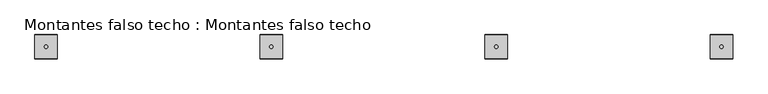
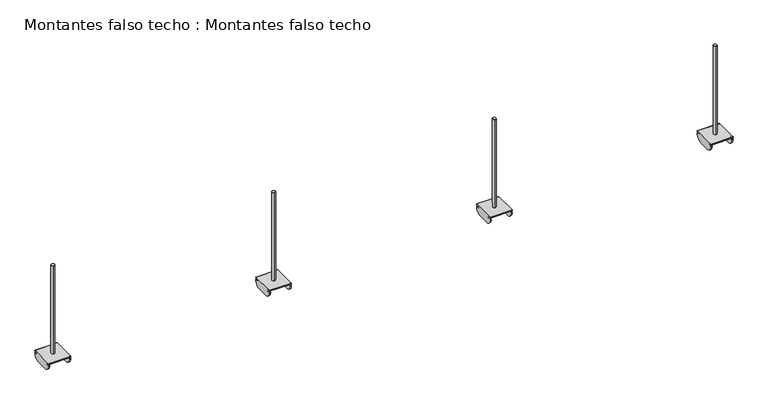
"""IFC4 building model written with IfcOpenShell, lengths in millimetres: proxy geometry, Montantes falso techo : Montantes falso techo."""

from ifc_helpers import new_model, si_unit, point, frame, frame_2d, origin, place, context, project, spatial, polyline, circle_curve, trimmed, segment, composite_curve, outline, extrude, source, transform, mapped, element, save
from ifc_brep_helpers import plane_surface, cylinder_surface, revolved_surface, advanced_brep


def montantes_falso_techo_montantes_falso_techo_e8f84bc9(model_context):
    return source(origin(), model_context, "Body", "SolidModel", [
        advanced_brep(
        [(2820.0, 43.5, 20.5482632), (2820.0, 1.5, 20.5482632), (2820.0, 1.0, 20.0482632), (2820.0, 1.0, 18.9163502), (2820.0, 2.4828079, 18.9163502), (2820.0, 6.039567, 18.4830458), (2820.0, 5.9539025, 16.4867218), (2820.0, 1.5116522, 16.4867218), (2820.0, 1.0121251, 15.9649826), (2820.0, 10.5007775, 4.4867218), (2820.0, 34.5007775, 4.4867218), (2820.0, 43.98943, 15.9649826), (2820.0, 43.4899028, 16.4867218), (2820.0, 39.0281213, 16.4867218), (2820.0, 38.9388351, 18.4827278), (2820.0, 42.5171921, 18.9163502), (2820.0, 44.0007775, 18.9163502), (2820.0, 44.0007775, 20.0482632), (2780.0, 43.5, 20.5482632), (2780.0, 44.0, 20.0482632), (2780.0, 44.0007775, 18.9163502), (2780.0, 42.5171921, 18.9163502), (2780.0, 38.9388351, 18.4827278), (2780.0, 39.0281213, 16.4867218), (2780.0, 43.4899028, 16.4867218), (2780.0, 43.98943, 15.9649826), (2780.0, 34.5007775, 4.4867218), (2780.0, 10.5007775, 4.4867218), (2780.0, 1.0121251, 15.9649826), (2780.0, 1.5116522, 16.4867218), (2780.0, 5.9539025, 16.4867218), (2780.0, 6.039567, 18.4830458), (2780.0, 2.4828079, 18.9163502), (2780.0, 1.0, 18.9163502), (2780.0, 1.0, 20.0482632), (2780.0, 1.5, 20.5482632), (2818.0, 2.4828079, 18.9163502), (2818.0, 6.039567, 18.4830458), (2782.0, 6.039567, 18.4830458), (2782.0, 2.4828079, 18.9163502), (2818.0, 5.9539025, 16.4867218), (2782.0, 5.9539025, 16.4867218), (2818.0, 1.5116522, 16.4867218), (2782.0, 1.5116522, 16.4867218), (2818.0, 1.0121251, 15.9649826), (2782.0, 1.0121251, 15.9649826), (2818.0, 10.5007775, 4.4867218), (2782.0, 10.5007775, 4.4867218), (2818.0, 34.5007775, 4.4867218), (2782.0, 34.5007775, 4.4867218), (2818.0, 43.98943, 15.9649826), (2782.0, 43.98943, 15.9649826), (2818.0, 43.4899028, 16.4867218), (2782.0, 43.4899028, 16.4867218), (2818.0, 39.0281213, 16.4867218), (2782.0, 39.0281213, 16.4867218), (2818.0, 38.9388351, 18.4827278), (2782.0, 38.9388351, 18.4827278), (2818.0, 42.5171921, 18.9163502), (2782.0, 42.5171921, 18.9163502)],
        [
            (0, 1),
            (1, 2, circle_curve(frame((2820.0, 1.5, 20.0482632), z_axis=(1.0, 0.0, 0.0), x_axis=(0.0, 1.0, 0.0)), 0.5)),
            (2, 3),
            (3, 4),
            (4, 5),
            (5, 6, circle_curve(frame((2820.0, 5.9539025, 17.4867218), z_axis=(-1.0, 0.0, 0.0), x_axis=(0.0, 1.0, 0.0)), 1.0)),
            (6, 7),
            (7, 8, circle_curve(frame((2820.0, 1.5116522, 15.9867218), z_axis=(1.0, 0.0, 0.0), x_axis=(0.0, 1.0, 0.0)), 0.5)),
            (8, 9, circle_curve(frame((2820.0, 13.7293201, 16.8167271), z_axis=(1.0, 0.0, 0.0), x_axis=(0.0, 1.0, 0.0)), 12.7456862)),
            (9, 10),
            (10, 11, circle_curve(frame((2820.0, 31.272235, 16.8167271), z_axis=(1.0, 0.0, 0.0), x_axis=(0.0, 1.0, 0.0)), 12.7456862)),
            (11, 12, circle_curve(frame((2820.0, 43.4899028, 15.9867218), z_axis=(1.0, 0.0, 0.0), x_axis=(0.0, 1.0, 0.0)), 0.5)),
            (12, 13),
            (13, 14, circle_curve(frame((2820.0, 39.0281213, 17.4867218), z_axis=(-1.0, 0.0, 0.0), x_axis=(0.0, 1.0, 0.0)), 1.0)),
            (14, 15),
            (15, 16),
            (16, 17),
            (17, 0, circle_curve(frame((2820.0, 43.5, 20.0482632), z_axis=(1.0, 0.0, 0.0), x_axis=(0.0, 1.0, 0.0)), 0.5)),
            (18, 19, circle_curve(frame((2780.0, 43.5, 20.0482632), z_axis=(-1.0, 0.0, 0.0), x_axis=(0.0, 1.0, 0.0)), 0.5)),
            (19, 20),
            (20, 21),
            (21, 22),
            (22, 23, circle_curve(frame((2780.0, 39.0281213, 17.4867218), z_axis=(1.0, 0.0, 0.0), x_axis=(0.0, 1.0, 0.0)), 1.0)),
            (23, 24),
            (24, 25, circle_curve(frame((2780.0, 43.4899028, 15.9867218), z_axis=(-1.0, 0.0, 0.0), x_axis=(0.0, 1.0, 0.0)), 0.5)),
            (25, 26, circle_curve(frame((2780.0, 31.272235, 16.8167271), z_axis=(-1.0, 0.0, 0.0), x_axis=(0.0, 1.0, 0.0)), 12.7456862)),
            (26, 27),
            (27, 28, circle_curve(frame((2780.0, 13.7293201, 16.8167271), z_axis=(-1.0, 0.0, 0.0), x_axis=(0.0, 1.0, 0.0)), 12.7456862)),
            (28, 29, circle_curve(frame((2780.0, 1.5116522, 15.9867218), z_axis=(-1.0, 0.0, 0.0), x_axis=(0.0, 1.0, 0.0)), 0.5)),
            (29, 30),
            (30, 31, circle_curve(frame((2780.0, 5.9539025, 17.4867218), z_axis=(1.0, 0.0, 0.0), x_axis=(0.0, 1.0, 0.0)), 1.0)),
            (31, 32),
            (32, 33),
            (33, 34),
            (34, 35, circle_curve(frame((2780.0, 1.5, 20.0482632), z_axis=(-1.0, 0.0, 0.0), x_axis=(0.0, 1.0, 0.0)), 0.5)),
            (35, 18),
            (0, 18),
            (35, 1),
            (34, 2),
            (33, 3),
            (4, 36),
            (36, 37),
            (37, 5),
            (31, 38),
            (38, 39),
            (39, 32),
            (37, 40, circle_curve(frame((2818.0, 5.9539025, 17.4867218), z_axis=(-1.0, 0.0, 0.0), x_axis=(0.0, 1.0, 0.0)), 1.0)),
            (40, 6),
            (30, 41),
            (41, 38, circle_curve(frame((2782.0, 5.9539025, 17.4867218), z_axis=(1.0, 0.0, 0.0), x_axis=(0.0, 1.0, 0.0)), 1.0)),
            (40, 42),
            (42, 7),
            (29, 43),
            (43, 41),
            (42, 44, circle_curve(frame((2818.0, 1.5116522, 15.9867218), z_axis=(1.0, 0.0, 0.0), x_axis=(0.0, 1.0, 0.0)), 0.5)),
            (44, 8),
            (28, 45),
            (45, 43, circle_curve(frame((2782.0, 1.5116522, 15.9867218), z_axis=(-1.0, 0.0, 0.0), x_axis=(0.0, 1.0, 0.0)), 0.5)),
            (44, 46, circle_curve(frame((2818.0, 13.7293201, 16.8167271), z_axis=(1.0, 0.0, 0.0), x_axis=(0.0, 1.0, 0.0)), 12.7456862)),
            (46, 9),
            (27, 47),
            (47, 45, circle_curve(frame((2782.0, 13.7293201, 16.8167271), z_axis=(-1.0, 0.0, 0.0), x_axis=(0.0, 1.0, 0.0)), 12.7456862)),
            (46, 48),
            (48, 10),
            (26, 49),
            (49, 47),
            (48, 50, circle_curve(frame((2818.0, 31.272235, 16.8167271), z_axis=(1.0, 0.0, 0.0), x_axis=(0.0, 1.0, 0.0)), 12.7456862)),
            (50, 11),
            (25, 51),
            (51, 49, circle_curve(frame((2782.0, 31.272235, 16.8167271), z_axis=(-1.0, 0.0, 0.0), x_axis=(0.0, 1.0, 0.0)), 12.7456862)),
            (50, 52, circle_curve(frame((2818.0, 43.4899028, 15.9867218), z_axis=(1.0, 0.0, 0.0), x_axis=(0.0, 1.0, 0.0)), 0.5)),
            (52, 12),
            (24, 53),
            (53, 51, circle_curve(frame((2782.0, 43.4899028, 15.9867218), z_axis=(-1.0, 0.0, 0.0), x_axis=(0.0, 1.0, 0.0)), 0.5)),
            (52, 54),
            (54, 13),
            (23, 55),
            (55, 53),
            (54, 56, circle_curve(frame((2818.0, 39.0281213, 17.4867218), z_axis=(-1.0, 0.0, 0.0), x_axis=(0.0, 1.0, 0.0)), 1.0)),
            (56, 14),
            (22, 57),
            (57, 55, circle_curve(frame((2782.0, 39.0281213, 17.4867218), z_axis=(1.0, 0.0, 0.0), x_axis=(0.0, 1.0, 0.0)), 1.0)),
            (56, 58),
            (58, 15),
            (21, 59),
            (59, 57),
            (16, 20),
            (19, 17),
            (36, 58),
            (59, 39),
        ],
        [
            plane_surface(frame((2820.0, 1.5, 20.5482632), z_axis=(1.0, 0.0, 0.0), x_axis=(0.0, -1.0, -2.4252718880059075e-12))),
            plane_surface(frame((2780.0, 1.5, 20.5482632), z_axis=(-1.0, 0.0, 0.0), x_axis=(0.0, 1.0, 2.4252718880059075e-12))),
            plane_surface(frame((2820.0, 43.5, 20.5482632), z_axis=(0.0, -2.4252718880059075e-12, 1.0), x_axis=(-1.0, 0.0, 0.0))),
            cylinder_surface(frame((2780.0, 1.5, 20.0482632), z_axis=(1.0, 0.0, 0.0), x_axis=(0.0, 1.0, 0.0)), 0.5),
            plane_surface(frame((2820.0, 1.0, 20.0482632), z_axis=(0.0, -1.0, 0.0), x_axis=(-1.0, 0.0, 0.0))),
            plane_surface(frame((2820.0, 2.4828079, 18.9163502), z_axis=(0.0, -0.12093153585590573, -0.9926608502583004), x_axis=(-1.0, 0.0, 0.0))),
            revolved_surface(polyline([(2818.0, 6.9539025, 17.4867218), (2820.0, 6.9539025, 17.4867218)]), (2780.0, 5.9539025, 17.4867218), (-1.0, 0.0, 0.0)),
            revolved_surface(polyline([(2780.0, 6.9539025, 17.4867218), (2782.0, 6.9539025, 17.4867218)]), (2780.0, 5.9539025, 17.4867218), (-1.0, 0.0, 0.0)),
            plane_surface(frame((2820.0, 5.9539025, 16.4867218), z_axis=(0.0, -2.2931091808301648e-11, 1.0), x_axis=(-1.0, 0.0, 0.0))),
            cylinder_surface(frame((2780.0, 1.5116522, 15.9867218), z_axis=(1.0, 0.0, 0.0), x_axis=(0.0, 1.0, 0.0)), 0.5),
            cylinder_surface(frame((2780.0, 13.7293201, 16.8167271), z_axis=(1.0, 0.0, 0.0), x_axis=(0.0, 1.0, 0.0)), 12.7456862),
            plane_surface(frame((2820.0, 10.5007775, 4.4867218), z_axis=(0.0, 0.0, -1.0), x_axis=(-1.0, 0.0, 0.0))),
            cylinder_surface(frame((2780.0, 31.272235, 16.8167271), z_axis=(1.0, 0.0, 0.0), x_axis=(0.0, 1.0, 0.0)), 12.7456862),
            cylinder_surface(frame((2780.0, 43.4899028, 15.9867218), z_axis=(1.0, 0.0, 0.0), x_axis=(0.0, 1.0, 0.0)), 0.5),
            plane_surface(frame((2820.0, 43.4899028, 16.4867218), z_axis=(0.0, -1.5818150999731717e-10, 1.0), x_axis=(-1.0, 0.0, 0.0))),
            revolved_surface(polyline([(2818.0, 40.0281213, 17.4867218), (2820.0, 40.0281213, 17.4867218)]), (2780.0, 39.0281213, 17.4867218), (-1.0, 0.0, 0.0)),
            revolved_surface(polyline([(2780.0, 40.0281213, 17.4867218), (2782.0, 40.0281213, 17.4867218)]), (2780.0, 39.0281213, 17.4867218), (-1.0, 0.0, 0.0)),
            plane_surface(frame((2820.0, 38.9388351, 18.4827278), z_axis=(0.0, 0.12029916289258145, -0.9927376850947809), x_axis=(-1.0, 0.0, 0.0))),
            plane_surface(frame((2820.0, 44.0007775, 18.9163502), z_axis=(0.0, 1.0, 0.0), x_axis=(-1.0, 0.0, 0.0))),
            cylinder_surface(frame((2780.0, 43.5, 20.0482632), z_axis=(1.0, 0.0, 0.0), x_axis=(0.0, 1.0, 0.0)), 0.5),
            plane_surface(frame((2818.0, 0.0007775, 18.9163502), z_axis=(-1.0, 0.0, 0.0), x_axis=(0.0, 0.0, -1.0))),
            plane_surface(frame((2782.0, 46.4661896, 18.9163502), z_axis=(1.0, 0.0, 0.0), x_axis=(0.0, 0.0, -1.0))),
            plane_surface(frame((2820.0, 1.0, 18.9163502), z_axis=(0.0, 0.0, -1.0), x_axis=(-1.0, 0.0, 0.0))),
        ],
        [
            (0, [[1, 2, 3, 4, 5, 6, 7, 8, 9, 10, 11, 12, 13, 14, 15, 16, 17, 18]]),
            (1, [[19, 20, 21, 22, 23, 24, 25, 26, 27, 28, 29, 30, 31, 32, 33, 34, 35, 36]]),
            (2, [[-1, 37, -36, 38]]),
            (3, [[-2, -38, -35, 39]]),
            (4, [[40, -3, -39, -34]]),
            (5, [[-5, 41, 42, 43]]),
            (5, [[-32, 44, 45, 46]]),
            (6, [[-6, -43, 47, 48]]),
            (7, [[-31, 49, 50, -44]]),
            (8, [[-7, -48, 51, 52]]),
            (8, [[-30, 53, 54, -49]]),
            (9, [[-8, -52, 55, 56]]),
            (9, [[-29, 57, 58, -53]]),
            (10, [[-9, -56, 59, 60]]),
            (10, [[-28, 61, 62, -57]]),
            (11, [[-10, -60, 63, 64]]),
            (11, [[-27, 65, 66, -61]]),
            (12, [[-11, -64, 67, 68]]),
            (12, [[-26, 69, 70, -65]]),
            (13, [[-12, -68, 71, 72]]),
            (13, [[-25, 73, 74, -69]]),
            (14, [[-13, -72, 75, 76]]),
            (14, [[-24, 77, 78, -73]]),
            (15, [[-14, -76, 79, 80]]),
            (16, [[-23, 81, 82, -77]]),
            (17, [[-15, -80, 83, 84]]),
            (17, [[-22, 85, 86, -81]]),
            (18, [[-17, 87, -20, 88]]),
            (19, [[-18, -88, -19, -37]]),
            (20, [[89, -83, -79, -75, -71, -67, -63, -59, -55, -51, -47, -42]]),
            (21, [[90, -45, -50, -54, -58, -62, -66, -70, -74, -78, -82, -86]]),
            (22, [[-4, -40, -33, -46, -90, -85, -21, -87, -16, -84, -89, -41]]),
        ],
    ),
        extrude(outline(composite_curve([segment(trimmed(circle_curve(frame_2d((2800.0, 22.5)), 3.0), [point((2800.0, 19.5))], [point((2800.0, 25.5))], False, "CARTESIAN"), True, "CONTINUOUS"), segment(trimmed(circle_curve(frame_2d((2800.0, 22.5)), 3.0), [point((2800.0, 25.5))], [point((2800.0, 19.5))], False, "CARTESIAN"), True, "CONTINUOUS")], self_intersect=False)), frame((0.0, 0.0, 20.5482632), z_axis=(0.0, 0.0, 1.0), x_axis=(1.0, 0.0, 0.0)), (0.0, 0.0, 1.0), 169.4517368),
        advanced_brep(
        [(2420.0, 43.5, 20.5482632), (2420.0, 1.5, 20.5482632), (2420.0, 1.0, 20.0482632), (2420.0, 1.0, 18.9163502), (2420.0, 2.4828079, 18.9163502), (2420.0, 6.039567, 18.4830458), (2420.0, 5.9539025, 16.4867218), (2420.0, 1.5116522, 16.4867218), (2420.0, 1.0121251, 15.9649826), (2420.0, 10.5007775, 4.4867218), (2420.0, 34.5007775, 4.4867218), (2420.0, 43.98943, 15.9649826), (2420.0, 43.4899028, 16.4867218), (2420.0, 39.0281213, 16.4867218), (2420.0, 38.9388351, 18.4827278), (2420.0, 42.5171921, 18.9163502), (2420.0, 44.0007775, 18.9163502), (2420.0, 44.0007775, 20.0482632), (2380.0, 43.5, 20.5482632), (2380.0, 44.0, 20.0482632), (2380.0, 44.0007775, 18.9163502), (2380.0, 42.5171921, 18.9163502), (2380.0, 38.9388351, 18.4827278), (2380.0, 39.0281213, 16.4867218), (2380.0, 43.4899028, 16.4867218), (2380.0, 43.98943, 15.9649826), (2380.0, 34.5007775, 4.4867218), (2380.0, 10.5007775, 4.4867218), (2380.0, 1.0121251, 15.9649826), (2380.0, 1.5116522, 16.4867218), (2380.0, 5.9539025, 16.4867218), (2380.0, 6.039567, 18.4830458), (2380.0, 2.4828079, 18.9163502), (2380.0, 1.0, 18.9163502), (2380.0, 1.0, 20.0482632), (2380.0, 1.5, 20.5482632), (2418.0, 2.4828079, 18.9163502), (2418.0, 6.039567, 18.4830458), (2382.0, 6.039567, 18.4830458), (2382.0, 2.4828079, 18.9163502), (2418.0, 5.9539025, 16.4867218), (2382.0, 5.9539025, 16.4867218), (2418.0, 1.5116522, 16.4867218), (2382.0, 1.5116522, 16.4867218), (2418.0, 1.0121251, 15.9649826), (2382.0, 1.0121251, 15.9649826), (2418.0, 10.5007775, 4.4867218), (2382.0, 10.5007775, 4.4867218), (2418.0, 34.5007775, 4.4867218), (2382.0, 34.5007775, 4.4867218), (2418.0, 43.98943, 15.9649826), (2382.0, 43.98943, 15.9649826), (2418.0, 43.4899028, 16.4867218), (2382.0, 43.4899028, 16.4867218), (2418.0, 39.0281213, 16.4867218), (2382.0, 39.0281213, 16.4867218), (2418.0, 38.9388351, 18.4827278), (2382.0, 38.9388351, 18.4827278), (2418.0, 42.5171921, 18.9163502), (2382.0, 42.5171921, 18.9163502)],
        [
            (0, 1),
            (1, 2, circle_curve(frame((2420.0, 1.5, 20.0482632), z_axis=(1.0, 0.0, 0.0), x_axis=(0.0, 1.0, 0.0)), 0.5)),
            (2, 3),
            (3, 4),
            (4, 5),
            (5, 6, circle_curve(frame((2420.0, 5.9539025, 17.4867218), z_axis=(-1.0, 0.0, 0.0), x_axis=(0.0, 1.0, 0.0)), 1.0)),
            (6, 7),
            (7, 8, circle_curve(frame((2420.0, 1.5116522, 15.9867218), z_axis=(1.0, 0.0, 0.0), x_axis=(0.0, 1.0, 0.0)), 0.5)),
            (8, 9, circle_curve(frame((2420.0, 13.7293201, 16.8167271), z_axis=(1.0, 0.0, 0.0), x_axis=(0.0, 1.0, 0.0)), 12.7456862)),
            (9, 10),
            (10, 11, circle_curve(frame((2420.0, 31.272235, 16.8167271), z_axis=(1.0, 0.0, 0.0), x_axis=(0.0, 1.0, 0.0)), 12.7456862)),
            (11, 12, circle_curve(frame((2420.0, 43.4899028, 15.9867218), z_axis=(1.0, 0.0, 0.0), x_axis=(0.0, 1.0, 0.0)), 0.5)),
            (12, 13),
            (13, 14, circle_curve(frame((2420.0, 39.0281213, 17.4867218), z_axis=(-1.0, 0.0, 0.0), x_axis=(0.0, 1.0, 0.0)), 1.0)),
            (14, 15),
            (15, 16),
            (16, 17),
            (17, 0, circle_curve(frame((2420.0, 43.5, 20.0482632), z_axis=(1.0, 0.0, 0.0), x_axis=(0.0, 1.0, 0.0)), 0.5)),
            (18, 19, circle_curve(frame((2380.0, 43.5, 20.0482632), z_axis=(-1.0, 0.0, 0.0), x_axis=(0.0, 1.0, 0.0)), 0.5)),
            (19, 20),
            (20, 21),
            (21, 22),
            (22, 23, circle_curve(frame((2380.0, 39.0281213, 17.4867218), z_axis=(1.0, 0.0, 0.0), x_axis=(0.0, 1.0, 0.0)), 1.0)),
            (23, 24),
            (24, 25, circle_curve(frame((2380.0, 43.4899028, 15.9867218), z_axis=(-1.0, 0.0, 0.0), x_axis=(0.0, 1.0, 0.0)), 0.5)),
            (25, 26, circle_curve(frame((2380.0, 31.272235, 16.8167271), z_axis=(-1.0, 0.0, 0.0), x_axis=(0.0, 1.0, 0.0)), 12.7456862)),
            (26, 27),
            (27, 28, circle_curve(frame((2380.0, 13.7293201, 16.8167271), z_axis=(-1.0, 0.0, 0.0), x_axis=(0.0, 1.0, 0.0)), 12.7456862)),
            (28, 29, circle_curve(frame((2380.0, 1.5116522, 15.9867218), z_axis=(-1.0, 0.0, 0.0), x_axis=(0.0, 1.0, 0.0)), 0.5)),
            (29, 30),
            (30, 31, circle_curve(frame((2380.0, 5.9539025, 17.4867218), z_axis=(1.0, 0.0, 0.0), x_axis=(0.0, 1.0, 0.0)), 1.0)),
            (31, 32),
            (32, 33),
            (33, 34),
            (34, 35, circle_curve(frame((2380.0, 1.5, 20.0482632), z_axis=(-1.0, 0.0, 0.0), x_axis=(0.0, 1.0, 0.0)), 0.5)),
            (35, 18),
            (0, 18),
            (35, 1),
            (34, 2),
            (33, 3),
            (4, 36),
            (36, 37),
            (37, 5),
            (31, 38),
            (38, 39),
            (39, 32),
            (37, 40, circle_curve(frame((2418.0, 5.9539025, 17.4867218), z_axis=(-1.0, 0.0, 0.0), x_axis=(0.0, 1.0, 0.0)), 1.0)),
            (40, 6),
            (30, 41),
            (41, 38, circle_curve(frame((2382.0, 5.9539025, 17.4867218), z_axis=(1.0, 0.0, 0.0), x_axis=(0.0, 1.0, 0.0)), 1.0)),
            (40, 42),
            (42, 7),
            (29, 43),
            (43, 41),
            (42, 44, circle_curve(frame((2418.0, 1.5116522, 15.9867218), z_axis=(1.0, 0.0, 0.0), x_axis=(0.0, 1.0, 0.0)), 0.5)),
            (44, 8),
            (28, 45),
            (45, 43, circle_curve(frame((2382.0, 1.5116522, 15.9867218), z_axis=(-1.0, 0.0, 0.0), x_axis=(0.0, 1.0, 0.0)), 0.5)),
            (44, 46, circle_curve(frame((2418.0, 13.7293201, 16.8167271), z_axis=(1.0, 0.0, 0.0), x_axis=(0.0, 1.0, 0.0)), 12.7456862)),
            (46, 9),
            (27, 47),
            (47, 45, circle_curve(frame((2382.0, 13.7293201, 16.8167271), z_axis=(-1.0, 0.0, 0.0), x_axis=(0.0, 1.0, 0.0)), 12.7456862)),
            (46, 48),
            (48, 10),
            (26, 49),
            (49, 47),
            (48, 50, circle_curve(frame((2418.0, 31.272235, 16.8167271), z_axis=(1.0, 0.0, 0.0), x_axis=(0.0, 1.0, 0.0)), 12.7456862)),
            (50, 11),
            (25, 51),
            (51, 49, circle_curve(frame((2382.0, 31.272235, 16.8167271), z_axis=(-1.0, 0.0, 0.0), x_axis=(0.0, 1.0, 0.0)), 12.7456862)),
            (50, 52, circle_curve(frame((2418.0, 43.4899028, 15.9867218), z_axis=(1.0, 0.0, 0.0), x_axis=(0.0, 1.0, 0.0)), 0.5)),
            (52, 12),
            (24, 53),
            (53, 51, circle_curve(frame((2382.0, 43.4899028, 15.9867218), z_axis=(-1.0, 0.0, 0.0), x_axis=(0.0, 1.0, 0.0)), 0.5)),
            (52, 54),
            (54, 13),
            (23, 55),
            (55, 53),
            (54, 56, circle_curve(frame((2418.0, 39.0281213, 17.4867218), z_axis=(-1.0, 0.0, 0.0), x_axis=(0.0, 1.0, 0.0)), 1.0)),
            (56, 14),
            (22, 57),
            (57, 55, circle_curve(frame((2382.0, 39.0281213, 17.4867218), z_axis=(1.0, 0.0, 0.0), x_axis=(0.0, 1.0, 0.0)), 1.0)),
            (56, 58),
            (58, 15),
            (21, 59),
            (59, 57),
            (16, 20),
            (19, 17),
            (36, 58),
            (59, 39),
        ],
        [
            plane_surface(frame((2420.0, 1.5, 20.5482632), z_axis=(1.0, 0.0, 0.0), x_axis=(0.0, -1.0, -2.4252718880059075e-12))),
            plane_surface(frame((2380.0, 1.5, 20.5482632), z_axis=(-1.0, 0.0, 0.0), x_axis=(0.0, 1.0, 2.4252718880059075e-12))),
            plane_surface(frame((2420.0, 43.5, 20.5482632), z_axis=(0.0, -2.4252718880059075e-12, 1.0), x_axis=(-1.0, 0.0, 0.0))),
            cylinder_surface(frame((2380.0, 1.5, 20.0482632), z_axis=(1.0, 0.0, 0.0), x_axis=(0.0, 1.0, 0.0)), 0.5),
            plane_surface(frame((2420.0, 1.0, 20.0482632), z_axis=(0.0, -1.0, 0.0), x_axis=(-1.0, 0.0, 0.0))),
            plane_surface(frame((2420.0, 2.4828079, 18.9163502), z_axis=(0.0, -0.12093153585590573, -0.9926608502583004), x_axis=(-1.0, 0.0, 0.0))),
            revolved_surface(polyline([(2418.0, 6.9539025, 17.4867218), (2420.0, 6.9539025, 17.4867218)]), (2380.0, 5.9539025, 17.4867218), (-1.0, 0.0, 0.0)),
            revolved_surface(polyline([(2380.0, 6.9539025, 17.4867218), (2382.0, 6.9539025, 17.4867218)]), (2380.0, 5.9539025, 17.4867218), (-1.0, 0.0, 0.0)),
            plane_surface(frame((2420.0, 5.9539025, 16.4867218), z_axis=(0.0, -2.2931091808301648e-11, 1.0), x_axis=(-1.0, 0.0, 0.0))),
            cylinder_surface(frame((2380.0, 1.5116522, 15.9867218), z_axis=(1.0, 0.0, 0.0), x_axis=(0.0, 1.0, 0.0)), 0.5),
            cylinder_surface(frame((2380.0, 13.7293201, 16.8167271), z_axis=(1.0, 0.0, 0.0), x_axis=(0.0, 1.0, 0.0)), 12.7456862),
            plane_surface(frame((2420.0, 10.5007775, 4.4867218), z_axis=(0.0, 0.0, -1.0), x_axis=(-1.0, 0.0, 0.0))),
            cylinder_surface(frame((2380.0, 31.272235, 16.8167271), z_axis=(1.0, 0.0, 0.0), x_axis=(0.0, 1.0, 0.0)), 12.7456862),
            cylinder_surface(frame((2380.0, 43.4899028, 15.9867218), z_axis=(1.0, 0.0, 0.0), x_axis=(0.0, 1.0, 0.0)), 0.5),
            plane_surface(frame((2420.0, 43.4899028, 16.4867218), z_axis=(0.0, -1.5818150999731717e-10, 1.0), x_axis=(-1.0, 0.0, 0.0))),
            revolved_surface(polyline([(2418.0, 40.0281213, 17.4867218), (2420.0, 40.0281213, 17.4867218)]), (2380.0, 39.0281213, 17.4867218), (-1.0, 0.0, 0.0)),
            revolved_surface(polyline([(2380.0, 40.0281213, 17.4867218), (2382.0, 40.0281213, 17.4867218)]), (2380.0, 39.0281213, 17.4867218), (-1.0, 0.0, 0.0)),
            plane_surface(frame((2420.0, 38.9388351, 18.4827278), z_axis=(0.0, 0.12029916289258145, -0.9927376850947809), x_axis=(-1.0, 0.0, 0.0))),
            plane_surface(frame((2420.0, 44.0007775, 18.9163502), z_axis=(0.0, 1.0, 0.0), x_axis=(-1.0, 0.0, 0.0))),
            cylinder_surface(frame((2380.0, 43.5, 20.0482632), z_axis=(1.0, 0.0, 0.0), x_axis=(0.0, 1.0, 0.0)), 0.5),
            plane_surface(frame((2418.0, 0.0007775, 18.9163502), z_axis=(-1.0, 0.0, 0.0), x_axis=(0.0, 0.0, -1.0))),
            plane_surface(frame((2382.0, 46.4661896, 18.9163502), z_axis=(1.0, 0.0, 0.0), x_axis=(0.0, 0.0, -1.0))),
            plane_surface(frame((2420.0, 1.0, 18.9163502), z_axis=(0.0, 0.0, -1.0), x_axis=(-1.0, 0.0, 0.0))),
        ],
        [
            (0, [[1, 2, 3, 4, 5, 6, 7, 8, 9, 10, 11, 12, 13, 14, 15, 16, 17, 18]]),
            (1, [[19, 20, 21, 22, 23, 24, 25, 26, 27, 28, 29, 30, 31, 32, 33, 34, 35, 36]]),
            (2, [[-1, 37, -36, 38]]),
            (3, [[-2, -38, -35, 39]]),
            (4, [[40, -3, -39, -34]]),
            (5, [[-5, 41, 42, 43]]),
            (5, [[-32, 44, 45, 46]]),
            (6, [[-6, -43, 47, 48]]),
            (7, [[-31, 49, 50, -44]]),
            (8, [[-7, -48, 51, 52]]),
            (8, [[-30, 53, 54, -49]]),
            (9, [[-8, -52, 55, 56]]),
            (9, [[-29, 57, 58, -53]]),
            (10, [[-9, -56, 59, 60]]),
            (10, [[-28, 61, 62, -57]]),
            (11, [[-10, -60, 63, 64]]),
            (11, [[-27, 65, 66, -61]]),
            (12, [[-11, -64, 67, 68]]),
            (12, [[-26, 69, 70, -65]]),
            (13, [[-12, -68, 71, 72]]),
            (13, [[-25, 73, 74, -69]]),
            (14, [[-13, -72, 75, 76]]),
            (14, [[-24, 77, 78, -73]]),
            (15, [[-14, -76, 79, 80]]),
            (16, [[-23, 81, 82, -77]]),
            (17, [[-15, -80, 83, 84]]),
            (17, [[-22, 85, 86, -81]]),
            (18, [[-17, 87, -20, 88]]),
            (19, [[-18, -88, -19, -37]]),
            (20, [[89, -83, -79, -75, -71, -67, -63, -59, -55, -51, -47, -42]]),
            (21, [[90, -45, -50, -54, -58, -62, -66, -70, -74, -78, -82, -86]]),
            (22, [[-4, -40, -33, -46, -90, -85, -21, -87, -16, -84, -89, -41]]),
        ],
    ),
        extrude(outline(composite_curve([segment(trimmed(circle_curve(frame_2d((2400.0, 22.5)), 3.0), [point((2400.0, 19.5))], [point((2400.0, 25.5))], False, "CARTESIAN"), True, "CONTINUOUS"), segment(trimmed(circle_curve(frame_2d((2400.0, 22.5)), 3.0), [point((2400.0, 25.5))], [point((2400.0, 19.5))], False, "CARTESIAN"), True, "CONTINUOUS")], self_intersect=False)), frame((0.0, 0.0, 20.5482632), z_axis=(0.0, 0.0, 1.0), x_axis=(1.0, 0.0, 0.0)), (0.0, 0.0, 1.0), 169.4517368),
        advanced_brep(
        [(2020.0, 43.5, 20.5482632), (2020.0, 1.5, 20.5482632), (2020.0, 1.0, 20.0482632), (2020.0, 1.0, 18.9163502), (2020.0, 2.4828079, 18.9163502), (2020.0, 6.039567, 18.4830458), (2020.0, 5.9539025, 16.4867218), (2020.0, 1.5116522, 16.4867218), (2020.0, 1.0121251, 15.9649826), (2020.0, 10.5007775, 4.4867218), (2020.0, 34.5007775, 4.4867218), (2020.0, 43.98943, 15.9649826), (2020.0, 43.4899028, 16.4867218), (2020.0, 39.0281213, 16.4867218), (2020.0, 38.9388351, 18.4827278), (2020.0, 42.5171921, 18.9163502), (2020.0, 44.0007775, 18.9163502), (2020.0, 44.0007775, 20.0482632), (1980.0, 43.5, 20.5482632), (1980.0, 44.0, 20.0482632), (1980.0, 44.0007775, 18.9163502), (1980.0, 42.5171921, 18.9163502), (1980.0, 38.9388351, 18.4827278), (1980.0, 39.0281213, 16.4867218), (1980.0, 43.4899028, 16.4867218), (1980.0, 43.98943, 15.9649826), (1980.0, 34.5007775, 4.4867218), (1980.0, 10.5007775, 4.4867218), (1980.0, 1.0121251, 15.9649826), (1980.0, 1.5116522, 16.4867218), (1980.0, 5.9539025, 16.4867218), (1980.0, 6.039567, 18.4830458), (1980.0, 2.4828079, 18.9163502), (1980.0, 1.0, 18.9163502), (1980.0, 1.0, 20.0482632), (1980.0, 1.5, 20.5482632), (2018.0, 2.4828079, 18.9163502), (2018.0, 6.039567, 18.4830458), (1982.0, 6.039567, 18.4830458), (1982.0, 2.4828079, 18.9163502), (2018.0, 5.9539025, 16.4867218), (1982.0, 5.9539025, 16.4867218), (2018.0, 1.5116522, 16.4867218), (1982.0, 1.5116522, 16.4867218), (2018.0, 1.0121251, 15.9649826), (1982.0, 1.0121251, 15.9649826), (2018.0, 10.5007775, 4.4867218), (1982.0, 10.5007775, 4.4867218), (2018.0, 34.5007775, 4.4867218), (1982.0, 34.5007775, 4.4867218), (2018.0, 43.98943, 15.9649826), (1982.0, 43.98943, 15.9649826), (2018.0, 43.4899028, 16.4867218), (1982.0, 43.4899028, 16.4867218), (2018.0, 39.0281213, 16.4867218), (1982.0, 39.0281213, 16.4867218), (2018.0, 38.9388351, 18.4827278), (1982.0, 38.9388351, 18.4827278), (2018.0, 42.5171921, 18.9163502), (1982.0, 42.5171921, 18.9163502)],
        [
            (0, 1),
            (1, 2, circle_curve(frame((2020.0, 1.5, 20.0482632), z_axis=(1.0, 0.0, 0.0), x_axis=(0.0, 1.0, 0.0)), 0.5)),
            (2, 3),
            (3, 4),
            (4, 5),
            (5, 6, circle_curve(frame((2020.0, 5.9539025, 17.4867218), z_axis=(-1.0, 0.0, 0.0), x_axis=(0.0, 1.0, 0.0)), 1.0)),
            (6, 7),
            (7, 8, circle_curve(frame((2020.0, 1.5116522, 15.9867218), z_axis=(1.0, 0.0, 0.0), x_axis=(0.0, 1.0, 0.0)), 0.5)),
            (8, 9, circle_curve(frame((2020.0, 13.7293201, 16.8167271), z_axis=(1.0, 0.0, 0.0), x_axis=(0.0, 1.0, 0.0)), 12.7456862)),
            (9, 10),
            (10, 11, circle_curve(frame((2020.0, 31.272235, 16.8167271), z_axis=(1.0, 0.0, 0.0), x_axis=(0.0, 1.0, 0.0)), 12.7456862)),
            (11, 12, circle_curve(frame((2020.0, 43.4899028, 15.9867218), z_axis=(1.0, 0.0, 0.0), x_axis=(0.0, 1.0, 0.0)), 0.5)),
            (12, 13),
            (13, 14, circle_curve(frame((2020.0, 39.0281213, 17.4867218), z_axis=(-1.0, 0.0, 0.0), x_axis=(0.0, 1.0, 0.0)), 1.0)),
            (14, 15),
            (15, 16),
            (16, 17),
            (17, 0, circle_curve(frame((2020.0, 43.5, 20.0482632), z_axis=(1.0, 0.0, 0.0), x_axis=(0.0, 1.0, 0.0)), 0.5)),
            (18, 19, circle_curve(frame((1980.0, 43.5, 20.0482632), z_axis=(-1.0, 0.0, 0.0), x_axis=(0.0, 1.0, 0.0)), 0.5)),
            (19, 20),
            (20, 21),
            (21, 22),
            (22, 23, circle_curve(frame((1980.0, 39.0281213, 17.4867218), z_axis=(1.0, 0.0, 0.0), x_axis=(0.0, 1.0, 0.0)), 1.0)),
            (23, 24),
            (24, 25, circle_curve(frame((1980.0, 43.4899028, 15.9867218), z_axis=(-1.0, 0.0, 0.0), x_axis=(0.0, 1.0, 0.0)), 0.5)),
            (25, 26, circle_curve(frame((1980.0, 31.272235, 16.8167271), z_axis=(-1.0, 0.0, 0.0), x_axis=(0.0, 1.0, 0.0)), 12.7456862)),
            (26, 27),
            (27, 28, circle_curve(frame((1980.0, 13.7293201, 16.8167271), z_axis=(-1.0, 0.0, 0.0), x_axis=(0.0, 1.0, 0.0)), 12.7456862)),
            (28, 29, circle_curve(frame((1980.0, 1.5116522, 15.9867218), z_axis=(-1.0, 0.0, 0.0), x_axis=(0.0, 1.0, 0.0)), 0.5)),
            (29, 30),
            (30, 31, circle_curve(frame((1980.0, 5.9539025, 17.4867218), z_axis=(1.0, 0.0, 0.0), x_axis=(0.0, 1.0, 0.0)), 1.0)),
            (31, 32),
            (32, 33),
            (33, 34),
            (34, 35, circle_curve(frame((1980.0, 1.5, 20.0482632), z_axis=(-1.0, 0.0, 0.0), x_axis=(0.0, 1.0, 0.0)), 0.5)),
            (35, 18),
            (0, 18),
            (35, 1),
            (34, 2),
            (33, 3),
            (4, 36),
            (36, 37),
            (37, 5),
            (31, 38),
            (38, 39),
            (39, 32),
            (37, 40, circle_curve(frame((2018.0, 5.9539025, 17.4867218), z_axis=(-1.0, 0.0, 0.0), x_axis=(0.0, 1.0, 0.0)), 1.0)),
            (40, 6),
            (30, 41),
            (41, 38, circle_curve(frame((1982.0, 5.9539025, 17.4867218), z_axis=(1.0, 0.0, 0.0), x_axis=(0.0, 1.0, 0.0)), 1.0)),
            (40, 42),
            (42, 7),
            (29, 43),
            (43, 41),
            (42, 44, circle_curve(frame((2018.0, 1.5116522, 15.9867218), z_axis=(1.0, 0.0, 0.0), x_axis=(0.0, 1.0, 0.0)), 0.5)),
            (44, 8),
            (28, 45),
            (45, 43, circle_curve(frame((1982.0, 1.5116522, 15.9867218), z_axis=(-1.0, 0.0, 0.0), x_axis=(0.0, 1.0, 0.0)), 0.5)),
            (44, 46, circle_curve(frame((2018.0, 13.7293201, 16.8167271), z_axis=(1.0, 0.0, 0.0), x_axis=(0.0, 1.0, 0.0)), 12.7456862)),
            (46, 9),
            (27, 47),
            (47, 45, circle_curve(frame((1982.0, 13.7293201, 16.8167271), z_axis=(-1.0, 0.0, 0.0), x_axis=(0.0, 1.0, 0.0)), 12.7456862)),
            (46, 48),
            (48, 10),
            (26, 49),
            (49, 47),
            (48, 50, circle_curve(frame((2018.0, 31.272235, 16.8167271), z_axis=(1.0, 0.0, 0.0), x_axis=(0.0, 1.0, 0.0)), 12.7456862)),
            (50, 11),
            (25, 51),
            (51, 49, circle_curve(frame((1982.0, 31.272235, 16.8167271), z_axis=(-1.0, 0.0, 0.0), x_axis=(0.0, 1.0, 0.0)), 12.7456862)),
            (50, 52, circle_curve(frame((2018.0, 43.4899028, 15.9867218), z_axis=(1.0, 0.0, 0.0), x_axis=(0.0, 1.0, 0.0)), 0.5)),
            (52, 12),
            (24, 53),
            (53, 51, circle_curve(frame((1982.0, 43.4899028, 15.9867218), z_axis=(-1.0, 0.0, 0.0), x_axis=(0.0, 1.0, 0.0)), 0.5)),
            (52, 54),
            (54, 13),
            (23, 55),
            (55, 53),
            (54, 56, circle_curve(frame((2018.0, 39.0281213, 17.4867218), z_axis=(-1.0, 0.0, 0.0), x_axis=(0.0, 1.0, 0.0)), 1.0)),
            (56, 14),
            (22, 57),
            (57, 55, circle_curve(frame((1982.0, 39.0281213, 17.4867218), z_axis=(1.0, 0.0, 0.0), x_axis=(0.0, 1.0, 0.0)), 1.0)),
            (56, 58),
            (58, 15),
            (21, 59),
            (59, 57),
            (16, 20),
            (19, 17),
            (36, 58),
            (59, 39),
        ],
        [
            plane_surface(frame((2020.0, 1.5, 20.5482632), z_axis=(1.0, 0.0, 0.0), x_axis=(0.0, -1.0, -2.4252718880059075e-12))),
            plane_surface(frame((1980.0, 1.5, 20.5482632), z_axis=(-1.0, 0.0, 0.0), x_axis=(0.0, 1.0, 2.4252718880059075e-12))),
            plane_surface(frame((2020.0, 43.5, 20.5482632), z_axis=(0.0, -2.4252718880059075e-12, 1.0), x_axis=(-1.0, 0.0, 0.0))),
            cylinder_surface(frame((1980.0, 1.5, 20.0482632), z_axis=(1.0, 0.0, 0.0), x_axis=(0.0, 1.0, 0.0)), 0.5),
            plane_surface(frame((2020.0, 1.0, 20.0482632), z_axis=(0.0, -1.0, 0.0), x_axis=(-1.0, 0.0, 0.0))),
            plane_surface(frame((2020.0, 2.4828079, 18.9163502), z_axis=(0.0, -0.12093153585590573, -0.9926608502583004), x_axis=(-1.0, 0.0, 0.0))),
            revolved_surface(polyline([(2018.0, 6.9539025, 17.4867218), (2020.0, 6.9539025, 17.4867218)]), (1980.0, 5.9539025, 17.4867218), (-1.0, 0.0, 0.0)),
            revolved_surface(polyline([(1980.0, 6.9539025, 17.4867218), (1982.0, 6.9539025, 17.4867218)]), (1980.0, 5.9539025, 17.4867218), (-1.0, 0.0, 0.0)),
            plane_surface(frame((2020.0, 5.9539025, 16.4867218), z_axis=(0.0, -2.2931091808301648e-11, 1.0), x_axis=(-1.0, 0.0, 0.0))),
            cylinder_surface(frame((1980.0, 1.5116522, 15.9867218), z_axis=(1.0, 0.0, 0.0), x_axis=(0.0, 1.0, 0.0)), 0.5),
            cylinder_surface(frame((1980.0, 13.7293201, 16.8167271), z_axis=(1.0, 0.0, 0.0), x_axis=(0.0, 1.0, 0.0)), 12.7456862),
            plane_surface(frame((2020.0, 10.5007775, 4.4867218), z_axis=(0.0, 0.0, -1.0), x_axis=(-1.0, 0.0, 0.0))),
            cylinder_surface(frame((1980.0, 31.272235, 16.8167271), z_axis=(1.0, 0.0, 0.0), x_axis=(0.0, 1.0, 0.0)), 12.7456862),
            cylinder_surface(frame((1980.0, 43.4899028, 15.9867218), z_axis=(1.0, 0.0, 0.0), x_axis=(0.0, 1.0, 0.0)), 0.5),
            plane_surface(frame((2020.0, 43.4899028, 16.4867218), z_axis=(0.0, -1.5818150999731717e-10, 1.0), x_axis=(-1.0, 0.0, 0.0))),
            revolved_surface(polyline([(2018.0, 40.0281213, 17.4867218), (2020.0, 40.0281213, 17.4867218)]), (1980.0, 39.0281213, 17.4867218), (-1.0, 0.0, 0.0)),
            revolved_surface(polyline([(1980.0, 40.0281213, 17.4867218), (1982.0, 40.0281213, 17.4867218)]), (1980.0, 39.0281213, 17.4867218), (-1.0, 0.0, 0.0)),
            plane_surface(frame((2020.0, 38.9388351, 18.4827278), z_axis=(0.0, 0.12029916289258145, -0.9927376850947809), x_axis=(-1.0, 0.0, 0.0))),
            plane_surface(frame((2020.0, 44.0007775, 18.9163502), z_axis=(0.0, 1.0, 0.0), x_axis=(-1.0, 0.0, 0.0))),
            cylinder_surface(frame((1980.0, 43.5, 20.0482632), z_axis=(1.0, 0.0, 0.0), x_axis=(0.0, 1.0, 0.0)), 0.5),
            plane_surface(frame((2018.0, 0.0007775, 18.9163502), z_axis=(-1.0, 0.0, 0.0), x_axis=(0.0, 0.0, -1.0))),
            plane_surface(frame((1982.0, 46.4661896, 18.9163502), z_axis=(1.0, 0.0, 0.0), x_axis=(0.0, 0.0, -1.0))),
            plane_surface(frame((2020.0, 1.0, 18.9163502), z_axis=(0.0, 0.0, -1.0), x_axis=(-1.0, 0.0, 0.0))),
        ],
        [
            (0, [[1, 2, 3, 4, 5, 6, 7, 8, 9, 10, 11, 12, 13, 14, 15, 16, 17, 18]]),
            (1, [[19, 20, 21, 22, 23, 24, 25, 26, 27, 28, 29, 30, 31, 32, 33, 34, 35, 36]]),
            (2, [[-1, 37, -36, 38]]),
            (3, [[-2, -38, -35, 39]]),
            (4, [[40, -3, -39, -34]]),
            (5, [[-5, 41, 42, 43]]),
            (5, [[-32, 44, 45, 46]]),
            (6, [[-6, -43, 47, 48]]),
            (7, [[-31, 49, 50, -44]]),
            (8, [[-7, -48, 51, 52]]),
            (8, [[-30, 53, 54, -49]]),
            (9, [[-8, -52, 55, 56]]),
            (9, [[-29, 57, 58, -53]]),
            (10, [[-9, -56, 59, 60]]),
            (10, [[-28, 61, 62, -57]]),
            (11, [[-10, -60, 63, 64]]),
            (11, [[-27, 65, 66, -61]]),
            (12, [[-11, -64, 67, 68]]),
            (12, [[-26, 69, 70, -65]]),
            (13, [[-12, -68, 71, 72]]),
            (13, [[-25, 73, 74, -69]]),
            (14, [[-13, -72, 75, 76]]),
            (14, [[-24, 77, 78, -73]]),
            (15, [[-14, -76, 79, 80]]),
            (16, [[-23, 81, 82, -77]]),
            (17, [[-15, -80, 83, 84]]),
            (17, [[-22, 85, 86, -81]]),
            (18, [[-17, 87, -20, 88]]),
            (19, [[-18, -88, -19, -37]]),
            (20, [[89, -83, -79, -75, -71, -67, -63, -59, -55, -51, -47, -42]]),
            (21, [[90, -45, -50, -54, -58, -62, -66, -70, -74, -78, -82, -86]]),
            (22, [[-4, -40, -33, -46, -90, -85, -21, -87, -16, -84, -89, -41]]),
        ],
    ),
        extrude(outline(composite_curve([segment(trimmed(circle_curve(frame_2d((2000.0, 22.5)), 3.0), [point((2000.0, 19.5))], [point((2000.0, 25.5))], False, "CARTESIAN"), True, "CONTINUOUS"), segment(trimmed(circle_curve(frame_2d((2000.0, 22.5)), 3.0), [point((2000.0, 25.5))], [point((2000.0, 19.5))], False, "CARTESIAN"), True, "CONTINUOUS")], self_intersect=False)), frame((0.0, 0.0, 20.5482632), z_axis=(0.0, 0.0, 1.0), x_axis=(1.0, 0.0, 0.0)), (0.0, 0.0, 1.0), 169.4517368),
        advanced_brep(
        [(1620.0, 43.5, 20.5482632), (1620.0, 1.5, 20.5482632), (1620.0, 1.0, 20.0482632), (1620.0, 1.0, 18.9163502), (1620.0, 2.4828079, 18.9163502), (1620.0, 6.039567, 18.4830458), (1620.0, 5.9539025, 16.4867218), (1620.0, 1.5116522, 16.4867218), (1620.0, 1.0121251, 15.9649826), (1620.0, 10.5007775, 4.4867218), (1620.0, 34.5007775, 4.4867218), (1620.0, 43.98943, 15.9649826), (1620.0, 43.4899028, 16.4867218), (1620.0, 39.0281213, 16.4867218), (1620.0, 38.9388351, 18.4827278), (1620.0, 42.5171921, 18.9163502), (1620.0, 44.0007775, 18.9163502), (1620.0, 44.0007775, 20.0482632), (1580.0, 43.5, 20.5482632), (1580.0, 44.0, 20.0482632), (1580.0, 44.0007775, 18.9163502), (1580.0, 42.5171921, 18.9163502), (1580.0, 38.9388351, 18.4827278), (1580.0, 39.0281213, 16.4867218), (1580.0, 43.4899028, 16.4867218), (1580.0, 43.98943, 15.9649826), (1580.0, 34.5007775, 4.4867218), (1580.0, 10.5007775, 4.4867218), (1580.0, 1.0121251, 15.9649826), (1580.0, 1.5116522, 16.4867218), (1580.0, 5.9539025, 16.4867218), (1580.0, 6.039567, 18.4830458), (1580.0, 2.4828079, 18.9163502), (1580.0, 1.0, 18.9163502), (1580.0, 1.0, 20.0482632), (1580.0, 1.5, 20.5482632), (1618.0, 2.4828079, 18.9163502), (1618.0, 6.039567, 18.4830458), (1582.0, 6.039567, 18.4830458), (1582.0, 2.4828079, 18.9163502), (1618.0, 5.9539025, 16.4867218), (1582.0, 5.9539025, 16.4867218), (1618.0, 1.5116522, 16.4867218), (1582.0, 1.5116522, 16.4867218), (1618.0, 1.0121251, 15.9649826), (1582.0, 1.0121251, 15.9649826), (1618.0, 10.5007775, 4.4867218), (1582.0, 10.5007775, 4.4867218), (1618.0, 34.5007775, 4.4867218), (1582.0, 34.5007775, 4.4867218), (1618.0, 43.98943, 15.9649826), (1582.0, 43.98943, 15.9649826), (1618.0, 43.4899028, 16.4867218), (1582.0, 43.4899028, 16.4867218), (1618.0, 39.0281213, 16.4867218), (1582.0, 39.0281213, 16.4867218), (1618.0, 38.9388351, 18.4827278), (1582.0, 38.9388351, 18.4827278), (1618.0, 42.5171921, 18.9163502), (1582.0, 42.5171921, 18.9163502)],
        [
            (0, 1),
            (1, 2, circle_curve(frame((1620.0, 1.5, 20.0482632), z_axis=(1.0, 0.0, 0.0), x_axis=(0.0, 1.0, 0.0)), 0.5)),
            (2, 3),
            (3, 4),
            (4, 5),
            (5, 6, circle_curve(frame((1620.0, 5.9539025, 17.4867218), z_axis=(-1.0, 0.0, 0.0), x_axis=(0.0, 1.0, 0.0)), 1.0)),
            (6, 7),
            (7, 8, circle_curve(frame((1620.0, 1.5116522, 15.9867218), z_axis=(1.0, 0.0, 0.0), x_axis=(0.0, 1.0, 0.0)), 0.5)),
            (8, 9, circle_curve(frame((1620.0, 13.7293201, 16.8167271), z_axis=(1.0, 0.0, 0.0), x_axis=(0.0, 1.0, 0.0)), 12.7456862)),
            (9, 10),
            (10, 11, circle_curve(frame((1620.0, 31.272235, 16.8167271), z_axis=(1.0, 0.0, 0.0), x_axis=(0.0, 1.0, 0.0)), 12.7456862)),
            (11, 12, circle_curve(frame((1620.0, 43.4899028, 15.9867218), z_axis=(1.0, 0.0, 0.0), x_axis=(0.0, 1.0, 0.0)), 0.5)),
            (12, 13),
            (13, 14, circle_curve(frame((1620.0, 39.0281213, 17.4867218), z_axis=(-1.0, 0.0, 0.0), x_axis=(0.0, 1.0, 0.0)), 1.0)),
            (14, 15),
            (15, 16),
            (16, 17),
            (17, 0, circle_curve(frame((1620.0, 43.5, 20.0482632), z_axis=(1.0, 0.0, 0.0), x_axis=(0.0, 1.0, 0.0)), 0.5)),
            (18, 19, circle_curve(frame((1580.0, 43.5, 20.0482632), z_axis=(-1.0, 0.0, 0.0), x_axis=(0.0, 1.0, 0.0)), 0.5)),
            (19, 20),
            (20, 21),
            (21, 22),
            (22, 23, circle_curve(frame((1580.0, 39.0281213, 17.4867218), z_axis=(1.0, 0.0, 0.0), x_axis=(0.0, 1.0, 0.0)), 1.0)),
            (23, 24),
            (24, 25, circle_curve(frame((1580.0, 43.4899028, 15.9867218), z_axis=(-1.0, 0.0, 0.0), x_axis=(0.0, 1.0, 0.0)), 0.5)),
            (25, 26, circle_curve(frame((1580.0, 31.272235, 16.8167271), z_axis=(-1.0, 0.0, 0.0), x_axis=(0.0, 1.0, 0.0)), 12.7456862)),
            (26, 27),
            (27, 28, circle_curve(frame((1580.0, 13.7293201, 16.8167271), z_axis=(-1.0, 0.0, 0.0), x_axis=(0.0, 1.0, 0.0)), 12.7456862)),
            (28, 29, circle_curve(frame((1580.0, 1.5116522, 15.9867218), z_axis=(-1.0, 0.0, 0.0), x_axis=(0.0, 1.0, 0.0)), 0.5)),
            (29, 30),
            (30, 31, circle_curve(frame((1580.0, 5.9539025, 17.4867218), z_axis=(1.0, 0.0, 0.0), x_axis=(0.0, 1.0, 0.0)), 1.0)),
            (31, 32),
            (32, 33),
            (33, 34),
            (34, 35, circle_curve(frame((1580.0, 1.5, 20.0482632), z_axis=(-1.0, 0.0, 0.0), x_axis=(0.0, 1.0, 0.0)), 0.5)),
            (35, 18),
            (0, 18),
            (35, 1),
            (34, 2),
            (33, 3),
            (4, 36),
            (36, 37),
            (37, 5),
            (31, 38),
            (38, 39),
            (39, 32),
            (37, 40, circle_curve(frame((1618.0, 5.9539025, 17.4867218), z_axis=(-1.0, 0.0, 0.0), x_axis=(0.0, 1.0, 0.0)), 1.0)),
            (40, 6),
            (30, 41),
            (41, 38, circle_curve(frame((1582.0, 5.9539025, 17.4867218), z_axis=(1.0, 0.0, 0.0), x_axis=(0.0, 1.0, 0.0)), 1.0)),
            (40, 42),
            (42, 7),
            (29, 43),
            (43, 41),
            (42, 44, circle_curve(frame((1618.0, 1.5116522, 15.9867218), z_axis=(1.0, 0.0, 0.0), x_axis=(0.0, 1.0, 0.0)), 0.5)),
            (44, 8),
            (28, 45),
            (45, 43, circle_curve(frame((1582.0, 1.5116522, 15.9867218), z_axis=(-1.0, 0.0, 0.0), x_axis=(0.0, 1.0, 0.0)), 0.5)),
            (44, 46, circle_curve(frame((1618.0, 13.7293201, 16.8167271), z_axis=(1.0, 0.0, 0.0), x_axis=(0.0, 1.0, 0.0)), 12.7456862)),
            (46, 9),
            (27, 47),
            (47, 45, circle_curve(frame((1582.0, 13.7293201, 16.8167271), z_axis=(-1.0, 0.0, 0.0), x_axis=(0.0, 1.0, 0.0)), 12.7456862)),
            (46, 48),
            (48, 10),
            (26, 49),
            (49, 47),
            (48, 50, circle_curve(frame((1618.0, 31.272235, 16.8167271), z_axis=(1.0, 0.0, 0.0), x_axis=(0.0, 1.0, 0.0)), 12.7456862)),
            (50, 11),
            (25, 51),
            (51, 49, circle_curve(frame((1582.0, 31.272235, 16.8167271), z_axis=(-1.0, 0.0, 0.0), x_axis=(0.0, 1.0, 0.0)), 12.7456862)),
            (50, 52, circle_curve(frame((1618.0, 43.4899028, 15.9867218), z_axis=(1.0, 0.0, 0.0), x_axis=(0.0, 1.0, 0.0)), 0.5)),
            (52, 12),
            (24, 53),
            (53, 51, circle_curve(frame((1582.0, 43.4899028, 15.9867218), z_axis=(-1.0, 0.0, 0.0), x_axis=(0.0, 1.0, 0.0)), 0.5)),
            (52, 54),
            (54, 13),
            (23, 55),
            (55, 53),
            (54, 56, circle_curve(frame((1618.0, 39.0281213, 17.4867218), z_axis=(-1.0, 0.0, 0.0), x_axis=(0.0, 1.0, 0.0)), 1.0)),
            (56, 14),
            (22, 57),
            (57, 55, circle_curve(frame((1582.0, 39.0281213, 17.4867218), z_axis=(1.0, 0.0, 0.0), x_axis=(0.0, 1.0, 0.0)), 1.0)),
            (56, 58),
            (58, 15),
            (21, 59),
            (59, 57),
            (16, 20),
            (19, 17),
            (36, 58),
            (59, 39),
        ],
        [
            plane_surface(frame((1620.0, 1.5, 20.5482632), z_axis=(1.0, 0.0, 0.0), x_axis=(0.0, -1.0, -2.4252718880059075e-12))),
            plane_surface(frame((1580.0, 1.5, 20.5482632), z_axis=(-1.0, 0.0, 0.0), x_axis=(0.0, 1.0, 2.4252718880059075e-12))),
            plane_surface(frame((1620.0, 43.5, 20.5482632), z_axis=(0.0, -2.4252718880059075e-12, 1.0), x_axis=(-1.0, 0.0, 0.0))),
            cylinder_surface(frame((1580.0, 1.5, 20.0482632), z_axis=(1.0, 0.0, 0.0), x_axis=(0.0, 1.0, 0.0)), 0.5),
            plane_surface(frame((1620.0, 1.0, 20.0482632), z_axis=(0.0, -1.0, 0.0), x_axis=(-1.0, 0.0, 0.0))),
            plane_surface(frame((1620.0, 2.4828079, 18.9163502), z_axis=(0.0, -0.12093153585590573, -0.9926608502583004), x_axis=(-1.0, 0.0, 0.0))),
            revolved_surface(polyline([(1618.0, 6.9539025, 17.4867218), (1620.0, 6.9539025, 17.4867218)]), (1580.0, 5.9539025, 17.4867218), (-1.0, 0.0, 0.0)),
            revolved_surface(polyline([(1580.0, 6.9539025, 17.4867218), (1582.0, 6.9539025, 17.4867218)]), (1580.0, 5.9539025, 17.4867218), (-1.0, 0.0, 0.0)),
            plane_surface(frame((1620.0, 5.9539025, 16.4867218), z_axis=(0.0, -2.2931091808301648e-11, 1.0), x_axis=(-1.0, 0.0, 0.0))),
            cylinder_surface(frame((1580.0, 1.5116522, 15.9867218), z_axis=(1.0, 0.0, 0.0), x_axis=(0.0, 1.0, 0.0)), 0.5),
            cylinder_surface(frame((1580.0, 13.7293201, 16.8167271), z_axis=(1.0, 0.0, 0.0), x_axis=(0.0, 1.0, 0.0)), 12.7456862),
            plane_surface(frame((1620.0, 10.5007775, 4.4867218), z_axis=(0.0, 0.0, -1.0), x_axis=(-1.0, 0.0, 0.0))),
            cylinder_surface(frame((1580.0, 31.272235, 16.8167271), z_axis=(1.0, 0.0, 0.0), x_axis=(0.0, 1.0, 0.0)), 12.7456862),
            cylinder_surface(frame((1580.0, 43.4899028, 15.9867218), z_axis=(1.0, 0.0, 0.0), x_axis=(0.0, 1.0, 0.0)), 0.5),
            plane_surface(frame((1620.0, 43.4899028, 16.4867218), z_axis=(0.0, -1.5818150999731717e-10, 1.0), x_axis=(-1.0, 0.0, 0.0))),
            revolved_surface(polyline([(1618.0, 40.0281213, 17.4867218), (1620.0, 40.0281213, 17.4867218)]), (1580.0, 39.0281213, 17.4867218), (-1.0, 0.0, 0.0)),
            revolved_surface(polyline([(1580.0, 40.0281213, 17.4867218), (1582.0, 40.0281213, 17.4867218)]), (1580.0, 39.0281213, 17.4867218), (-1.0, 0.0, 0.0)),
            plane_surface(frame((1620.0, 38.9388351, 18.4827278), z_axis=(0.0, 0.12029916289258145, -0.9927376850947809), x_axis=(-1.0, 0.0, 0.0))),
            plane_surface(frame((1620.0, 44.0007775, 18.9163502), z_axis=(0.0, 1.0, 0.0), x_axis=(-1.0, 0.0, 0.0))),
            cylinder_surface(frame((1580.0, 43.5, 20.0482632), z_axis=(1.0, 0.0, 0.0), x_axis=(0.0, 1.0, 0.0)), 0.5),
            plane_surface(frame((1618.0, 0.0007775, 18.9163502), z_axis=(-1.0, 0.0, 0.0), x_axis=(0.0, 0.0, -1.0))),
            plane_surface(frame((1582.0, 46.4661896, 18.9163502), z_axis=(1.0, 0.0, 0.0), x_axis=(0.0, 0.0, -1.0))),
            plane_surface(frame((1620.0, 1.0, 18.9163502), z_axis=(0.0, 0.0, -1.0), x_axis=(-1.0, 0.0, 0.0))),
        ],
        [
            (0, [[1, 2, 3, 4, 5, 6, 7, 8, 9, 10, 11, 12, 13, 14, 15, 16, 17, 18]]),
            (1, [[19, 20, 21, 22, 23, 24, 25, 26, 27, 28, 29, 30, 31, 32, 33, 34, 35, 36]]),
            (2, [[-1, 37, -36, 38]]),
            (3, [[-2, -38, -35, 39]]),
            (4, [[40, -3, -39, -34]]),
            (5, [[-5, 41, 42, 43]]),
            (5, [[-32, 44, 45, 46]]),
            (6, [[-6, -43, 47, 48]]),
            (7, [[-31, 49, 50, -44]]),
            (8, [[-7, -48, 51, 52]]),
            (8, [[-30, 53, 54, -49]]),
            (9, [[-8, -52, 55, 56]]),
            (9, [[-29, 57, 58, -53]]),
            (10, [[-9, -56, 59, 60]]),
            (10, [[-28, 61, 62, -57]]),
            (11, [[-10, -60, 63, 64]]),
            (11, [[-27, 65, 66, -61]]),
            (12, [[-11, -64, 67, 68]]),
            (12, [[-26, 69, 70, -65]]),
            (13, [[-12, -68, 71, 72]]),
            (13, [[-25, 73, 74, -69]]),
            (14, [[-13, -72, 75, 76]]),
            (14, [[-24, 77, 78, -73]]),
            (15, [[-14, -76, 79, 80]]),
            (16, [[-23, 81, 82, -77]]),
            (17, [[-15, -80, 83, 84]]),
            (17, [[-22, 85, 86, -81]]),
            (18, [[-17, 87, -20, 88]]),
            (19, [[-18, -88, -19, -37]]),
            (20, [[89, -83, -79, -75, -71, -67, -63, -59, -55, -51, -47, -42]]),
            (21, [[90, -45, -50, -54, -58, -62, -66, -70, -74, -78, -82, -86]]),
            (22, [[-4, -40, -33, -46, -90, -85, -21, -87, -16, -84, -89, -41]]),
        ],
    ),
        extrude(outline(composite_curve([segment(trimmed(circle_curve(frame_2d((1600.0, 22.5)), 3.0), [point((1600.0, 19.5))], [point((1600.0, 25.5))], False, "CARTESIAN"), True, "CONTINUOUS"), segment(trimmed(circle_curve(frame_2d((1600.0, 22.5)), 3.0), [point((1600.0, 25.5))], [point((1600.0, 19.5))], False, "CARTESIAN"), True, "CONTINUOUS")], self_intersect=False)), frame((0.0, 0.0, 20.5482632), z_axis=(0.0, 0.0, 1.0), x_axis=(1.0, 0.0, 0.0)), (0.0, 0.0, 1.0), 169.4517368),
    ])


if __name__ == "__main__":
    model = new_model("IFC4")
    model_context = context("Model", 3, world=origin())
    ifc_project = project(units=[si_unit("LENGTHUNIT", "METRE", prefix="MILLI")], contexts=[model_context])
    site = spatial("IfcSite", under=ifc_project)
    building = spatial("IfcBuilding", under=site)
    placement = place(None, origin())
    montantes_falso_techo_montantes_falso_techo_shape = montantes_falso_techo_montantes_falso_techo_e8f84bc9(model_context)
    element("IfcBuildingElementProxy", 1, Name="Montantes falso techo : Montantes falso techo", ObjectType="Montantes falso techo : Montantes falso techo", at=placement, inside=building, context=model_context, shape_type="MappedRepresentation", body=[
        mapped(montantes_falso_techo_montantes_falso_techo_shape, transform((0.0, 0.0, 0.0), x_axis=(1.0, 0.0, 0.0), y_axis=(0.0, 1.0, 0.0), z_axis=(0.0, 0.0, 1.0))),
    ])
    save(model, "model.ifc")
